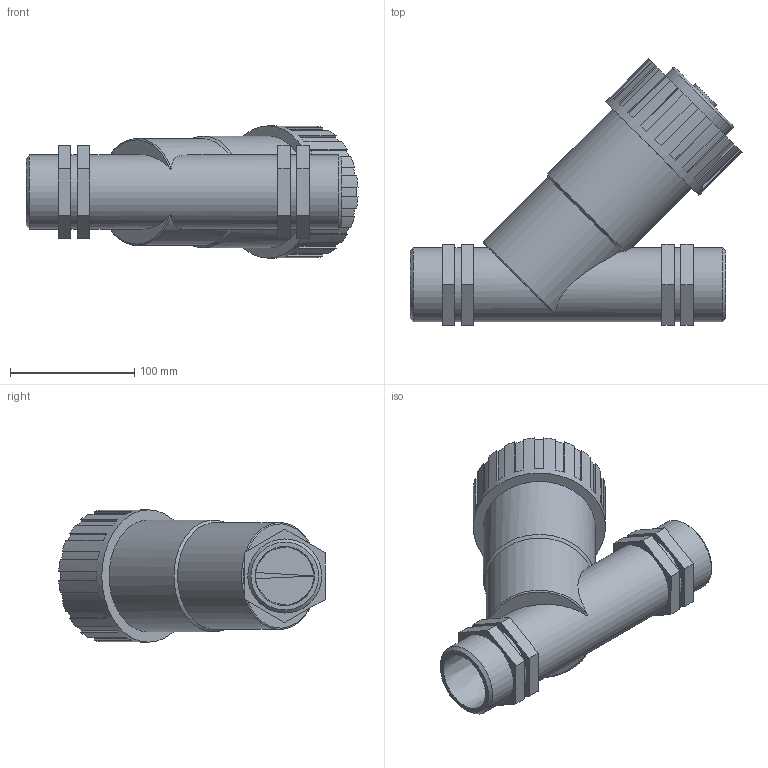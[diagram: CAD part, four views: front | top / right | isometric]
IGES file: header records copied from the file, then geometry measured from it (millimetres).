
Global section: file name: 03067220_030672200A.ipt; native system: Autodesk Inventor 2015; preprocessor: unknown; author: KIM; date: 20170619.121335; units: millimetre
Bounding box: 267.17 x 214.48 x 106.47 mm (x, y, z)
Volume: 1534941.9 mm3; surface area: 160351.7 mm2
Topology: 1 solids, 2 shells, 138 faces, 372 edges, 248 vertices
Faces by surface type: plane 100, cylinder 31, revolution 4, cone 3
Full cylindrical faces by diameter (mm): 24.57 x1, 59.614 x5, 68.796 x1, 90.09 x1, 106.47 x1
